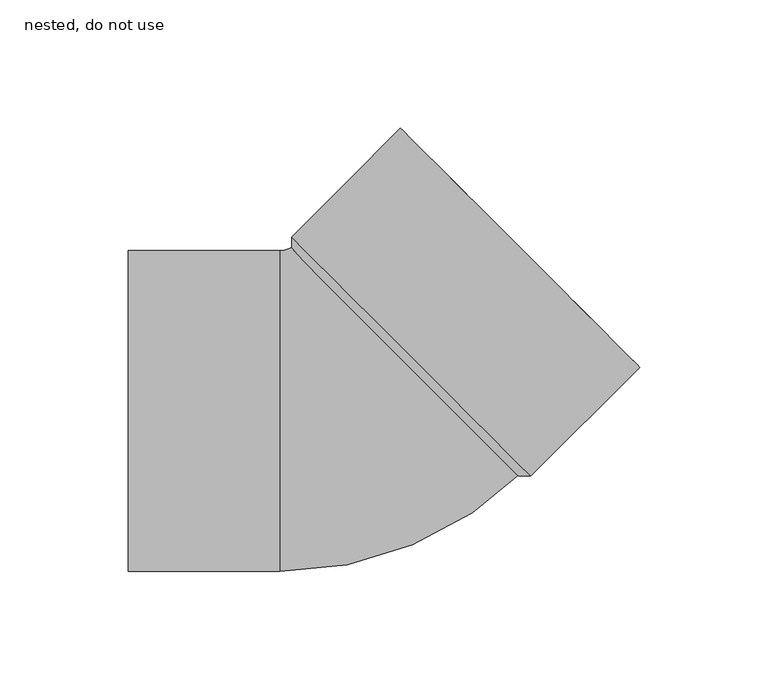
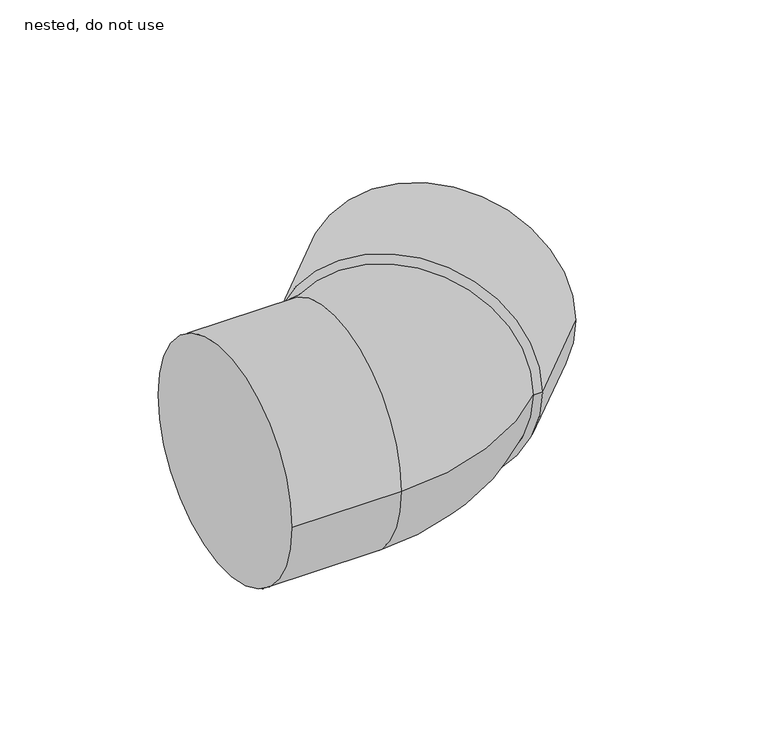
"""IFC4 building model written with IfcOpenShell, lengths in millimetres: pipe fitting geometry, NLRS_52_PIF_UN_Vacurain Flex bocht 1LV_SH_Dyka : nested, do not use."""

from ifc_helpers import new_model, si_unit, point, frame, origin, place, context, project, spatial, polyline, circle_curve, ellipse_curve, trimmed, source, transform, mapped, element, save
from ifc_brep_helpers import plane_surface, cylinder_surface, revolved_surface, advanced_brep


def nested_do_not_use_75a1a269(model_context):
    return source(origin(), model_context, "Body", "AdvancedBrep", [
        advanced_brep(
        [(110.2379472, 17.0412734, 0.0), (17.0412734, 110.2379472, 0.0), (19.4454365, 107.8337841, 0.0), (107.8337841, 19.4454365, 0.0), (67.8115403, -25.3851334, 0.0), (-25.3851334, 67.8115403, 0.0), (63.0032142, -25.3851334, 0.0), (-25.3851334, 63.0032142, 0.0)],
        [
            (0, 1, circle_curve(frame((63.6396103, 63.6396103, 0.0), z_axis=(0.7071067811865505, 0.7071067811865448, 0.0), x_axis=(-0.7071067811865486, 0.7071067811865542, 0.0)), 65.9)),
            (1, 2),
            (2, 3, circle_curve(frame((63.6396103, 63.6396103, 0.0), z_axis=(-0.7071067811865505, -0.7071067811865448, 0.0), x_axis=(-0.7071067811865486, 0.7071067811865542, 0.0)), 62.5)),
            (3, 0),
            (1, 0, circle_curve(frame((63.6396103, 63.6396103, 0.0), z_axis=(0.7071067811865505, 0.7071067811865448, 0.0), x_axis=(-0.7071067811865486, 0.7071067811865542, 0.0)), 65.9)),
            (3, 2, circle_curve(frame((63.6396103, 63.6396103, 0.0), z_axis=(-0.7071067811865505, -0.7071067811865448, 0.0), x_axis=(-0.7071067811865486, 0.7071067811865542, 0.0)), 62.5)),
            (4, 5, circle_curve(frame((21.2132034, 21.2132034, 0.0), z_axis=(0.7071067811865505, 0.7071067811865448, 0.0), x_axis=(-0.7071067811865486, 0.7071067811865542, 0.0)), 65.9)),
            (5, 1),
            (0, 4),
            (5, 4, circle_curve(frame((21.2132034, 21.2132034, 0.0), z_axis=(0.7071067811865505, 0.7071067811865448, 0.0), x_axis=(-0.7071067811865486, 0.7071067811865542, 0.0)), 65.9)),
            (6, 7, circle_curve(frame((18.8090404, 18.8090404, 0.0), z_axis=(0.7071067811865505, 0.7071067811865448, 0.0), x_axis=(-0.7071067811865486, 0.7071067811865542, 0.0)), 62.5)),
            (7, 5),
            (4, 6),
            (7, 6, circle_curve(frame((18.8090404, 18.8090404, 0.0), z_axis=(0.7071067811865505, 0.7071067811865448, 0.0), x_axis=(-0.7071067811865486, 0.7071067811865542, 0.0)), 62.5)),
            (2, 7),
            (6, 3),
        ],
        [
            plane_surface(frame((63.6396103, 63.6396103, 0.0), z_axis=(0.7071067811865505, 0.7071067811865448, 0.0), x_axis=(-0.7071067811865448, 0.7071067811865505, 0.0))),
            cylinder_surface(frame((21.2132034, 21.2132034, 0.0), z_axis=(-0.7071067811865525, -0.7071067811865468, 0.0), x_axis=(-0.7071067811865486, 0.7071067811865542, 0.0)), 65.9),
            revolved_surface(polyline([(-25.3851334, 67.8115403, 0.0), (-25.3851334, 63.0032142, 0.0)]), (21.2132034, 21.2132034, 0.0), (-0.7071067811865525, -0.7071067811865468, 0.0)),
            revolved_surface(polyline([(-25.385133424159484, 63.003214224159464, 0.0), (19.445436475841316, 107.8337841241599, 0.0)]), (21.2132034, 21.2132034, 0.0), (-0.7071067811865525, -0.7071067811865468, 0.0)),
        ],
        [
            (0, [[1, 2, 3, 4]]),
            (0, [[5, -4, 6, -2]]),
            (1, [[7, 8, -1, 9]]),
            (1, [[10, -9, -5, -8]]),
            (2, [[11, 12, -7, 13]]),
            (2, [[14, -13, -10, -12]]),
            (3, [[-3, 15, -11, 16]]),
            (3, [[-6, -16, -14, -15]]),
        ],
    ),
        advanced_brep(
        [(-89.0, -62.5, 0.0), (-89.0, 62.5, 0.0), (-30.0, -62.5, 0.0), (-30.0, 62.5, 0.0), (65.4073773, -22.9809704, 0.0), (21.2137056, 21.2127012, 62.5), (-22.9809704, 65.4073773, 0.0), (21.2137056, 21.2127012, -62.5)],
        [
            (0, 1, circle_curve(frame((-89.0, 0.0, 0.0), z_axis=(-1.0, 0.0, 0.0), x_axis=(0.0, 1.0, 0.0)), 62.5)),
            (1, 0, circle_curve(frame((-89.0, 0.0, 0.0), z_axis=(-1.0, 0.0, 0.0), x_axis=(0.0, 1.0, 0.0)), 62.5)),
            (0, 2),
            (2, 3, circle_curve(frame((-30.0, 0.0, 0.0), z_axis=(-1.0, 0.0, 0.0), x_axis=(0.0, 1.0, 0.0)), 62.5)),
            (3, 1),
            (3, 2, circle_curve(frame((-30.0, 0.0, 0.0), z_axis=(-1.0, 0.0, 0.0), x_axis=(0.0, 1.0, 0.0)), 62.5)),
            (2, 4, circle_curve(frame((-30.0, 72.4264069, 0.0), z_axis=(0.0, 0.0, 1.0), x_axis=(0.0, -1.0, 0.0)), 134.9264069)),
            (4, 5, circle_curve(frame((21.2132034, 21.2132034, 0.0), z_axis=(-0.7071067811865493, -0.7071067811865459, 0.0), x_axis=(-0.707106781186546, 0.7071067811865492, 0.0)), 62.5)),
            (5, 6, circle_curve(frame((21.2132034, 21.2132034, 0.0), z_axis=(-0.7071067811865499, -0.7071067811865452, 0.0), x_axis=(-0.7071067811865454, 0.7071067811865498, 0.0)), 62.5)),
            (6, 3, circle_curve(frame((-30.0, 72.4264069, 0.0), z_axis=(0.0, 0.0, -1.0), x_axis=(0.0, -1.0, 0.0)), 9.9264069)),
            (6, 7, circle_curve(frame((21.2132034, 21.2132034, 0.0), z_axis=(-0.7071067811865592, -0.7071067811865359, 0.0), x_axis=(-0.707106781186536, 0.7071067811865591, 0.0)), 62.5)),
            (7, 4, circle_curve(frame((21.2132034, 21.2132034, 0.0), z_axis=(-0.7071067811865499, -0.7071067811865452, 0.0), x_axis=(-0.7071067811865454, 0.7071067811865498, 0.0)), 62.5)),
        ],
        [
            plane_surface(frame((-89.0, 0.0, 0.0), z_axis=(-1.0, 0.0, 0.0), x_axis=(0.0, 0.0, 1.0))),
            cylinder_surface(frame((-89.0, 0.0, 0.0), z_axis=(-1.0, 0.0, 0.0), x_axis=(0.0, 1.0, 0.0)), 62.5),
            revolved_surface(trimmed(ellipse_curve(frame((-30.0, 0.0, 0.0), z_axis=(-1.0000000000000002, 0.0, 0.0), x_axis=(0.0, 1.0, 0.0)), 62.5, 62.5), [point((-30.0, -62.5, 0.0))], [point((-30.0, 62.5, 0.0))], True, "CARTESIAN"), (-30.0, 72.4264069, 0.0), (0.0, 0.0, 1.0000000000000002)),
            revolved_surface(trimmed(ellipse_curve(frame((-30.0, 0.0, 0.0), z_axis=(-1.0000000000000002, 0.0, 0.0), x_axis=(0.0, 1.0, 0.0)), 62.5, 62.5), [point((-30.0, 62.5, 0.0))], [point((-30.0, -62.5, 0.0))], True, "CARTESIAN"), (-30.0, 72.4264069, 0.0), (0.0, 0.0, 1.0000000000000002)),
            plane_surface(frame((21.2132034, 21.2132034, 0.0), z_axis=(0.7071067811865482, 0.7071067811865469, 0.0), x_axis=(0.0, 0.0, 1.0))),
        ],
        [
            (0, [[1, 2]]),
            (1, [[-1, 3, 4, 5]]),
            (1, [[-2, -5, 6, -3]]),
            (2, [[-4, 7, 8, 9, 10]]),
            (3, [[-6, -10, 11, 12, -7]]),
            (4, [[-8, -12, -11, -9]]),
        ],
    ),
    ])


if __name__ == "__main__":
    model = new_model("IFC4")
    model_context = context("Model", 3, world=origin())
    ifc_project = project(units=[si_unit("LENGTHUNIT", "METRE", prefix="MILLI")], contexts=[model_context])
    site = spatial("IfcSite", under=ifc_project)
    building = spatial("IfcBuilding", under=site)
    placement = place(None, origin())
    nested_do_not_use_shape = nested_do_not_use_75a1a269(model_context)
    element("IfcPipeFitting", 1, ObjectType="NLRS_52_PIF_UN_Vacurain Flex bocht 1LV_SH_Dyka : nested, do not use", at=placement, inside=building, context=model_context, shape_type="MappedRepresentation", body=[
        mapped(nested_do_not_use_shape, transform((0.0, 0.0, 0.0), x_axis=(1.0, 0.0, 0.0), y_axis=(0.0, 1.0, 0.0), z_axis=(0.0, 0.0, 1.0))),
    ])
    save(model, "model.ifc")
